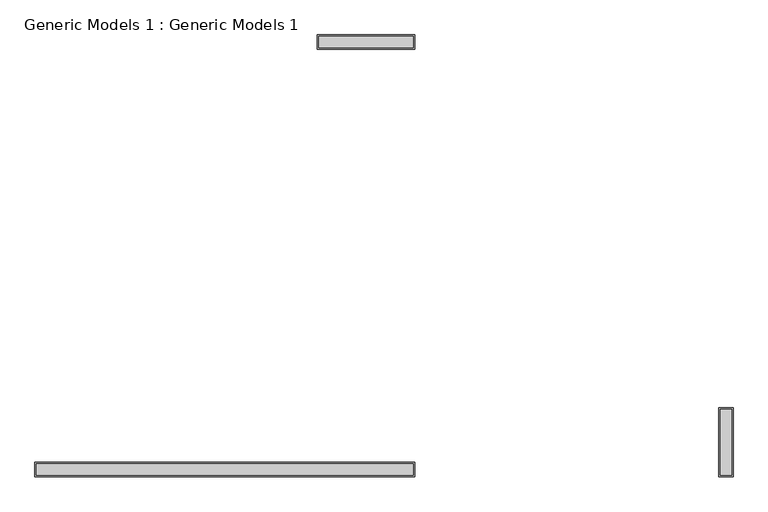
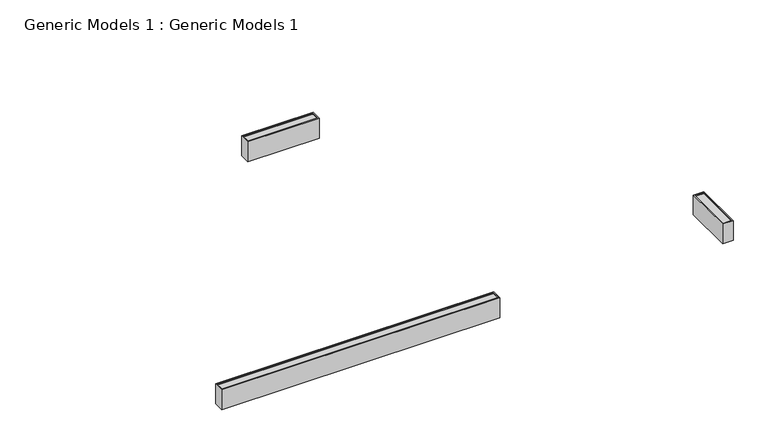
"""IFC4 building model written with IfcOpenShell, lengths in millimetres: proxy geometry, Generic Models 1 : Generic Models 1."""

import ifcopenshell
import ifcopenshell.guid

model = None  # the IFC model being written
_history = None  # IfcOwnerHistory: only IFC2X3 demands one
_inside = {}  # id of a spatial element -> (the spatial element, [elements in it])
_under = {}  # id of a project, library or spatial element -> (it, [spatial elements below it])
_declared = {}  # id of a project -> (the project, [libraries it declares])
_typed = {}  # id of a type object -> (the type object, [elements of that type])
_made_of = {}  # id of a material, layer set ... -> (it, [elements and type objects made of it])


def new_model(schema):
    """Start an empty IFC model of exactly this schema.

    Asked for "IFC4X3", IfcOpenShell would pick the latest addendum, in which some entities
    have other attributes; the version numbers below select the first issue.
    IFC2X3 requires an IfcOwnerHistory on every rooted entity: one is made here for all.
    """
    global model, _history
    if schema == "IFC4X3":
        model = ifcopenshell.file(schema_version=(4, 3, 0, 0))
    else:
        model = ifcopenshell.file(schema=schema)
    _inside.clear()
    _under.clear()
    _declared.clear()
    _typed.clear()
    _made_of.clear()
    _history = None
    if model.schema == "IFC2X3":
        org = make("IfcOrganization", Name="unknown")
        user = make(
            "IfcPersonAndOrganization",
            ThePerson=make("IfcPerson", FamilyName="unknown"),
            TheOrganization=org,
        )
        app = make(
            "IfcApplication",
            ApplicationDeveloper=org,
            Version="unknown",
            ApplicationFullName="unknown",
            ApplicationIdentifier="unknown",
        )
        _history = make(
            "IfcOwnerHistory",
            OwningUser=user,
            OwningApplication=app,
            ChangeAction="ADDED",
            CreationDate=0,
        )
    return model


def make(cls, **values):
    """One entity of the class cls with the attributes given. An attribute that is None is left unset."""
    return model.create_entity(
        cls, **{name: value for name, value in values.items() if value is not None}
    )


def rooted(cls, **values):
    """An entity with a GlobalId (a new one), such as an element, a storey or a relation."""
    return make(cls, GlobalId=ifcopenshell.guid.new(), OwnerHistory=_history, **values)


def si_unit(unit_type, name, prefix=None):
    """IfcSIUnit, for example si_unit("LENGTHUNIT", "METRE", prefix="MILLI")."""
    return make("IfcSIUnit", UnitType=unit_type, Prefix=prefix, Name=name)


def assignment(units):
    """IfcUnitAssignment: the units of a project."""
    return None if units is None else make("IfcUnitAssignment", Units=units)


def point(xyz):
    """IfcCartesianPoint."""
    return None if xyz is None else make("IfcCartesianPoint", Coordinates=xyz)


def direction(xyz):
    """IfcDirection."""
    return None if xyz is None else make("IfcDirection", DirectionRatios=xyz)


def frame(location, z_axis=None, x_axis=None):
    """IfcAxis2Placement3D, a coordinate frame: its origin and axes. An axis left out is left unset."""
    return make(
        "IfcAxis2Placement3D",
        Location=point(location),
        Axis=direction(z_axis),
        RefDirection=direction(x_axis),
    )


def origin():
    """The frame at (0, 0, 0) with its axes left unset."""
    return frame((0.0, 0.0, 0.0))


def place(relative_to, where):
    """IfcLocalPlacement: puts the frame where relative to a parent placement (None: the world)."""
    return make(
        "IfcLocalPlacement", PlacementRelTo=relative_to, RelativePlacement=where
    )


def context(
    kind, dimensions, precision=None, world=None, true_north=None, identifier=None
):
    """IfcGeometricRepresentationContext, for example the 3D "Model" context."""
    return make(
        "IfcGeometricRepresentationContext",
        ContextIdentifier=identifier,
        ContextType=kind,
        CoordinateSpaceDimension=dimensions,
        Precision=precision,
        WorldCoordinateSystem=world,
        TrueNorth=true_north,
    )


def project(units=None, contexts=None):
    """IfcProject with its units and contexts."""
    return rooted(
        "IfcProject",
        Name="project",
        RepresentationContexts=contexts,
        UnitsInContext=assignment(units),
    )


def spatial(cls, under=None, at=None, **own):
    """A site, building, storey or space (cls), placed at a placement, below another one or the project."""
    s = rooted(cls, ObjectPlacement=at, **own)
    if under is not None:
        _under.setdefault(under.id(), (under, []))[1].append(s)
    return s


def faces_of(points, faces, orient=None, outer=None):
    """IfcFace entities. A face is a list of loops; a loop is a list of indices into points, from 0.

    orient and outer hold one flag for each loop. By default every Orientation is true, the
    first loop of a face is its IfcFaceOuterBound and the others are IfcFaceBound.
    """
    made = []
    for i, loops in enumerate(faces):
        bounds = []
        for j, loop in enumerate(loops):
            is_outer = j == 0 if outer is None else outer[i][j]
            bounds.append(
                make(
                    "IfcFaceOuterBound" if is_outer else "IfcFaceBound",
                    Bound=make("IfcPolyLoop", Polygon=[points[k] for k in loop]),
                    Orientation=True if orient is None else orient[i][j],
                )
            )
        made.append(make("IfcFace", Bounds=bounds))
    return made


def faceted_brep(points, faces, orient=None, outer=None, voids=None):
    """IfcFacetedBrep: a solid bounded by flat faces; with voids (closed shells), ...WithVoids."""
    shared = [point(p) for p in points]
    hull = make("IfcClosedShell", CfsFaces=faces_of(shared, faces, orient, outer))
    if voids is None:
        return make("IfcFacetedBrep", Outer=hull)
    return make(
        "IfcFacetedBrepWithVoids",
        Outer=hull,
        Voids=[
            make(cls, CfsFaces=faces_of(shared, fs, o, b)) for cls, fs, o, b in voids
        ],
    )


def shape(context_of_items, identifier, shape_type, items):
    """IfcShapeRepresentation: the items that make up one representation, for example the "Body"."""
    return make(
        "IfcShapeRepresentation",
        ContextOfItems=context_of_items,
        RepresentationIdentifier=identifier,
        RepresentationType=shape_type,
        Items=items,
    )


def source(mapping_origin, context_of_items, identifier, shape_type, items):
    """IfcRepresentationMap: a shape defined once, which mapped items show again and again."""
    return make(
        "IfcRepresentationMap",
        MappingOrigin=mapping_origin,
        MappedRepresentation=shape(context_of_items, identifier, shape_type, items),
    )


def transform(
    local_origin,
    x_axis=None,
    y_axis=None,
    z_axis=None,
    scale=None,
    scale2=None,
    scale3=None,
    uniform=True,
):
    """IfcCartesianTransformationOperator3D, or its non-uniform kind. x_axis, y_axis, z_axis: its Axis1, 2, 3."""
    if uniform:
        return make(
            "IfcCartesianTransformationOperator3D",
            Axis1=direction(x_axis),
            Axis2=direction(y_axis),
            LocalOrigin=point(local_origin),
            Scale=scale,
            Axis3=direction(z_axis),
        )
    return make(
        "IfcCartesianTransformationOperator3DnonUniform",
        Axis1=direction(x_axis),
        Axis2=direction(y_axis),
        LocalOrigin=point(local_origin),
        Scale=scale,
        Axis3=direction(z_axis),
        Scale2=scale2,
        Scale3=scale3,
    )


def mapped(mapping_source, mapping_target):
    """IfcMappedItem: shows the shape of a source again, moved by a transform."""
    return make(
        "IfcMappedItem", MappingSource=mapping_source, MappingTarget=mapping_target
    )


def made_of(thing, what):
    """Note that an element or type object is made of a material, layer set ...; save() writes the relation."""
    if what is not None:
        _made_of.setdefault(what.id(), (what, []))[1].append(thing)
    return thing


def element(
    cls,
    number,
    at=None,
    inside=None,
    cuts=None,
    type_object=None,
    material=None,
    context=None,
    identifier="Body",
    shape_type=None,
    held_by="IfcProductDefinitionShape",
    body=None,
    shapes=None,
    **own,
):
    """One element of the class cls, such as IfcWall. Its Tag is "e" and its number.

    at: its placement. inside: the storey or other place that contains it. cuts: it is an
    opening in that element (IfcRelVoidsElement). A single representation is given by context,
    identifier, shape_type and body (its items); several are given by shapes. held_by: the class
    of the entity that holds the representations. save() writes the other relations.
    """
    e = rooted(cls, Tag="e%d" % number, ObjectPlacement=at, **own)
    if body is not None:
        shapes = [shape(context, identifier, shape_type, body)]
    if shapes is not None:
        e.Representation = make(held_by, Representations=shapes)
    if inside is not None:
        _inside.setdefault(inside.id(), (inside, []))[1].append(e)
    if cuts is not None:
        rooted(
            "IfcRelVoidsElement", RelatingBuildingElement=cuts, RelatedOpeningElement=e
        )
    if type_object is not None:
        _typed.setdefault(type_object.id(), (type_object, []))[1].append(e)
    return made_of(e, material)


def aggregate(whole, parts):
    """IfcRelAggregates: a whole, such as a stair, and the parts it consists of."""
    return rooted("IfcRelAggregates", RelatingObject=whole, RelatedObjects=parts)


def save(model, path):
    """Write the relations noted so far, then the file.

    IfcRelAggregates (storeys below a building ...), IfcRelContainedInSpatialStructure (elements
    in a storey), IfcRelDefinesByType, IfcRelAssociatesMaterial and IfcRelDeclares: one each for
    every whole, place, type object, material and project.
    """
    for whole, parts in _under.values():
        aggregate(whole, parts)
    for where, things in _inside.values():
        rooted(
            "IfcRelContainedInSpatialStructure",
            RelatedElements=things,
            RelatingStructure=where,
        )
    for kind, things in _typed.values():
        rooted("IfcRelDefinesByType", RelatedObjects=things, RelatingType=kind)
    for what, things in _made_of.values():
        rooted("IfcRelAssociatesMaterial", RelatedObjects=things, RelatingMaterial=what)
    for by, libraries in _declared.values():
        rooted("IfcRelDeclares", RelatingContext=by, RelatedDefinitions=libraries)
    model.write(path)


def generic_models_1_generic_models_1_f5644560(model_context):
    return source(origin(), model_context, "Body", "Brep", [
        faceted_brep([(6143.1337784, -1733.0793342, 1000.0), (-7092.8294862, -1733.0793342, 1000.0), (-7092.8294862, -2233.0793342, 1000.0), (6143.1337784, -2233.0793342, 1000.0), (6093.1337784, -2183.0793342, 1000.0), (-7042.8294862, -2183.0793342, 1000.0), (-7042.8294862, -1783.0793342, 1000.0), (6093.1337784, -1783.0793342, 1000.0), (6143.1337784, -1733.0793342, 0.0), (6143.1337784, -2233.0793342, 0.0), (-7092.8294862, -2233.0793342, 0.0), (-7092.8294862, -1733.0793342, 0.0), (6093.1337784, -2183.0793342, 950.0), (6093.1337784, -1783.0793342, 950.0), (-7042.8294862, -1783.0793342, 950.0), (-7042.8294862, -2183.0793342, 950.0)], [[[0, 1, 2, 3], [4, 5, 6, 7]], [[8, 9, 10, 11]], [[1, 0, 8, 11]], [[2, 1, 11, 10]], [[3, 2, 10, 9]], [[0, 3, 9, 8]], [[12, 13, 14, 15]], [[12, 15, 5, 4]], [[15, 14, 6, 5]], [[14, 13, 7, 6]], [[13, 12, 4, 7]]]),
        faceted_brep([(6143.1337784, 13166.9206658, 1000.0), (2746.1337784, 13166.9206658, 1000.0), (2746.1337784, 12666.9206658, 1000.0), (6143.1337784, 12666.9206658, 1000.0), (6093.1337784, 12716.9206658, 1000.0), (2796.1337784, 12716.9206658, 1000.0), (2796.1337784, 13116.9206658, 1000.0), (6093.1337784, 13116.9206658, 1000.0), (6143.1337784, 13166.9206658, 0.0), (6143.1337784, 12666.9206658, 0.0), (2746.1337784, 12666.9206658, 0.0), (2746.1337784, 13166.9206658, 0.0), (6093.1337784, 12716.9206658, 950.0), (6093.1337784, 13116.9206658, 950.0), (2796.1337784, 13116.9206658, 950.0), (2796.1337784, 12716.9206658, 950.0)], [[[0, 1, 2, 3], [4, 5, 6, 7]], [[8, 9, 10, 11]], [[1, 0, 8, 11]], [[2, 1, 11, 10]], [[3, 2, 10, 9]], [[0, 3, 9, 8]], [[12, 13, 14, 15]], [[12, 15, 5, 4]], [[15, 14, 6, 5]], [[14, 13, 7, 6]], [[13, 12, 4, 7]]]),
        faceted_brep([(16743.1337784, 166.9206658, 1000.0), (16743.1337784, -2233.0793342, 1000.0), (17243.1337784, -2233.0793342, 1000.0), (17243.1337784, 166.9206658, 1000.0), (17193.1337784, 116.9206658, 1000.0), (17193.1337784, -2183.0793342, 1000.0), (16793.1337784, -2183.0793342, 1000.0), (16793.1337784, 116.9206658, 1000.0), (16743.1337784, 166.9206658, 0.0), (17243.1337784, 166.9206658, 0.0), (17243.1337784, -2233.0793342, 0.0), (16743.1337784, -2233.0793342, 0.0), (17193.1337784, 116.9206658, 950.0), (16793.1337784, 116.9206658, 950.0), (16793.1337784, -2183.0793342, 950.0), (17193.1337784, -2183.0793342, 950.0)], [[[0, 1, 2, 3], [4, 5, 6, 7]], [[8, 9, 10, 11]], [[1, 0, 8, 11]], [[2, 1, 11, 10]], [[3, 2, 10, 9]], [[0, 3, 9, 8]], [[12, 13, 14, 15]], [[12, 15, 5, 4]], [[15, 14, 6, 5]], [[14, 13, 7, 6]], [[13, 12, 4, 7]]]),
    ])


if __name__ == "__main__":
    model = new_model("IFC4")
    model_context = context("Model", 3, world=origin())
    ifc_project = project(units=[si_unit("LENGTHUNIT", "METRE", prefix="MILLI")], contexts=[model_context])
    site = spatial("IfcSite", under=ifc_project)
    building = spatial("IfcBuilding", under=site)
    placement = place(None, origin())
    generic_models_1_generic_models_1_shape = generic_models_1_generic_models_1_f5644560(model_context)
    element("IfcBuildingElementProxy", 1, Name="Generic Models 1 : Generic Models 1", ObjectType="Generic Models 1 : Generic Models 1", at=placement, inside=building, context=model_context, shape_type="MappedRepresentation", body=[
        mapped(generic_models_1_generic_models_1_shape, transform((0.0, 0.0, 0.0), x_axis=(1.0, 0.0, 0.0), y_axis=(0.0, 1.0, 0.0), z_axis=(0.0, 0.0, 1.0))),
    ])
    save(model, "model.ifc")
